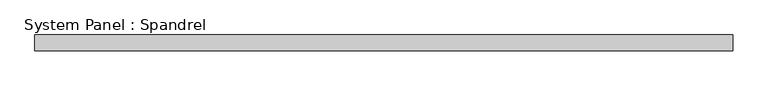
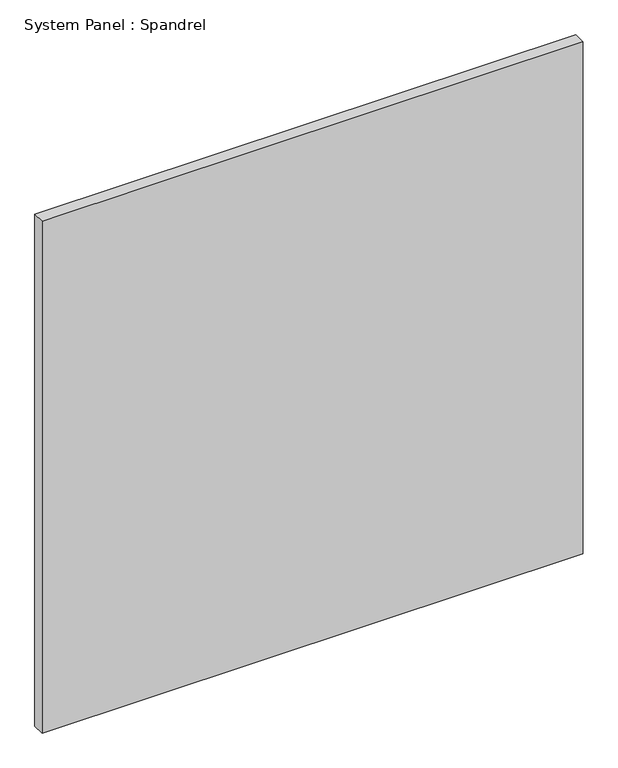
"""IFC4 building model written with IfcOpenShell, lengths in millimetres: plate geometry, System Panel : Spandrel."""

from ifc_helpers import new_model, si_unit, origin, origin_with_axes, place, context, project, spatial, polyline, outline, extrude, source, transform, mapped, element, save


def system_panel_spandrel_d4a144d6(model_context):
    return source(origin(), model_context, "Body", "SweptSolid", [
        extrude(outline(polyline([(549.9638169, 0.0), (-549.9638169, 0.0), (-549.9638169, 25.0), (549.9638169, 25.0), (549.9638169, 0.0)])), origin_with_axes(), (0.0, 0.0, 1.0), 1100.0),
    ])


if __name__ == "__main__":
    model = new_model("IFC4")
    model_context = context("Model", 3, world=origin())
    ifc_project = project(units=[si_unit("LENGTHUNIT", "METRE", prefix="MILLI")], contexts=[model_context])
    site = spatial("IfcSite", under=ifc_project)
    building = spatial("IfcBuilding", under=site)
    placement = place(None, origin())
    system_panel_spandrel_shape = system_panel_spandrel_d4a144d6(model_context)
    element("IfcPlate", 1, ObjectType="System Panel : Spandrel", at=placement, inside=building, context=model_context, shape_type="MappedRepresentation", body=[
        mapped(system_panel_spandrel_shape, transform((0.0, 0.0, 0.0), x_axis=(1.0, 0.0, 0.0), y_axis=(0.0, 1.0, 0.0), z_axis=(0.0, 0.0, 1.0))),
    ])
    save(model, "model.ifc")
